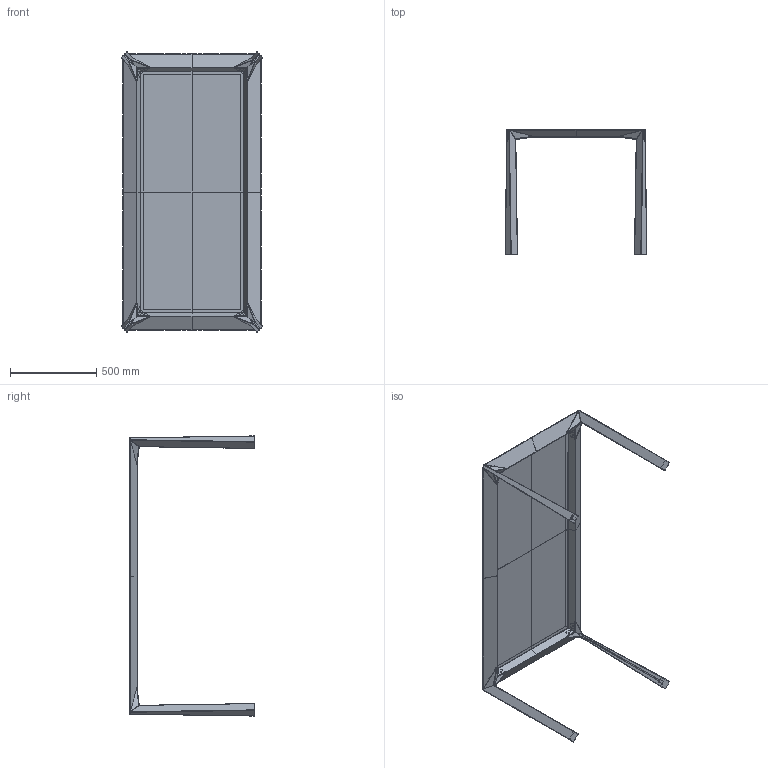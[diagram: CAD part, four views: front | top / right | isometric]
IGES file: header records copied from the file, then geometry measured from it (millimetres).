
Start section:  PTC IGES file: ovidio_asm.igs
Global section: file name: /Users/matteo_studiocdb02/Desktop/SPACE 3d (2)/Ovidio/ovidio 160x80x72h 3D.igs; native system: Rhinoceros ( Oct 18 2012 ); preprocessor: Trout Lake IGES 012 Oct 18 2012; date: 121112.163309; units: millimetre
Bounding box: 821.92 x 721.53 x 1621.92 mm (x, y, z)
Surface area: 4863811.9 mm2 (no closed solid volume)
Topology: 0 solids, 0 shells, 1164 faces, 6248 edges, 6248 vertices
Faces by surface type: bspline 1164
